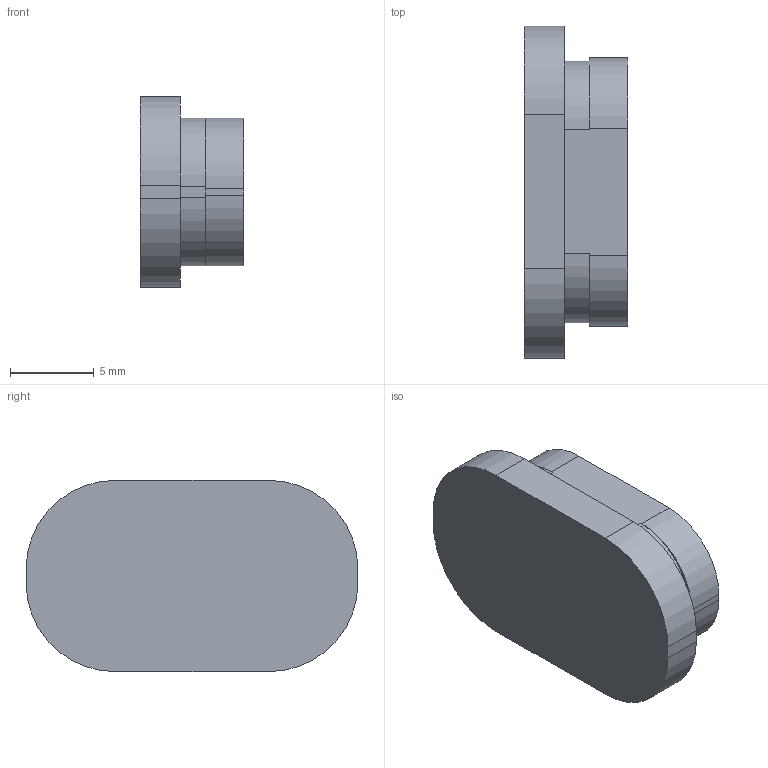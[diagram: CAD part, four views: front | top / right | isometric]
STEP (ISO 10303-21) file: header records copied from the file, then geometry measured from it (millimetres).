
FILE_DESCRIPTION(/* description */ (''),/* implementation_level */ '2;1');
FILE_NAME(/* name */ '04_Volume_Up.step',/* time_stamp */ '2026-09-16T19:15:02-07:00',/* author */ (''),/* organization */ (''),/* preprocessor_version */ 'ST-DEVELOPER v20.1',/* originating_system */ 'Autodesk Translation Framework v15.8.0.0',/* authorisation */ '');
FILE_SCHEMA (('AUTOMOTIVE_DESIGN { 1 0 10303 214 3 1 1 }'));
Length unit declared in the file: centimetre
Products named in the file (1): 2026-09-16-19-15-02-932
Bounding box: 6.2 x 19.8 x 11.4 mm (x, y, z)
Volume: 952.6 mm3; surface area: 705.3 mm2
Topology: 1 solids, 1 shells, 40 faces, 108 edges, 72 vertices
Faces by surface type: plane 28, cylinder 12
Entity records: 1296 total; most frequent: CARTESIAN_POINT 221, ORIENTED_EDGE 216, DIRECTION 214, EDGE_CURVE 108, LINE 84, VECTOR 84, VERTEX_POINT 72, AXIS2_PLACEMENT_3D 65
